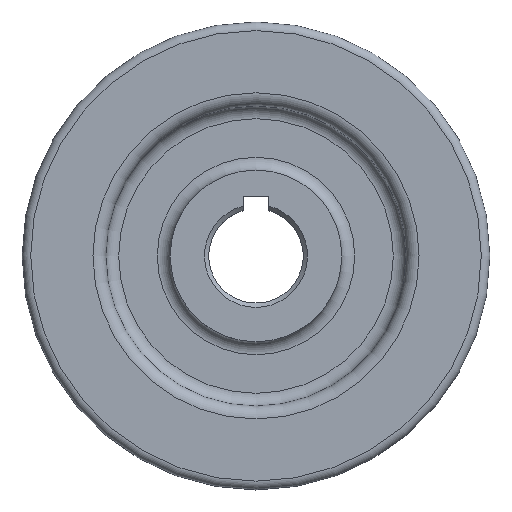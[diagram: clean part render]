
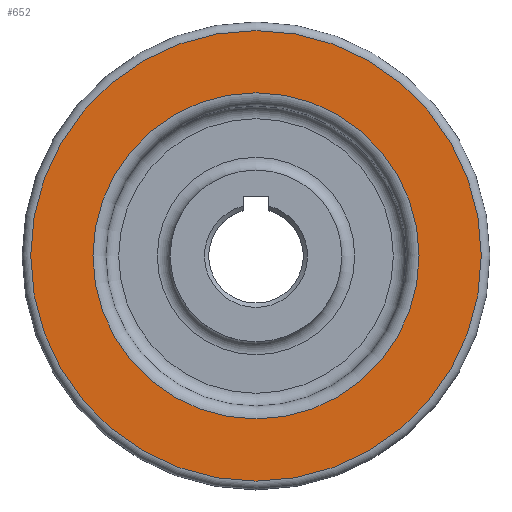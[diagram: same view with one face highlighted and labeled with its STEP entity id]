
A CAD part, top view. The second image highlights one B-rep face of the part: STEP entity #652.
In plain terms, the highlighted planar face has unit normal (0, 0, 1).
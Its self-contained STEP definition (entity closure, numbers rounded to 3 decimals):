
#43=FACE_BOUND('',#155,.T.);
#96=PLANE('',#731);
#111=FACE_OUTER_BOUND('',#154,.T.);
#154=EDGE_LOOP('',(#487));
#155=EDGE_LOOP('',(#488));
#195=CIRCLE('',#724,38.);
#201=CIRCLE('',#732,52.5);
#281=VERTEX_POINT('',#1133);
#286=VERTEX_POINT('',#1147);
#355=EDGE_CURVE('',#281,#281,#195,.T.);
#362=EDGE_CURVE('',#286,#286,#201,.T.);
#487=ORIENTED_EDGE('',*,*,#362,.F.);
#488=ORIENTED_EDGE('',*,*,#355,.F.);
#652=ADVANCED_FACE('',(#111,#43),#96,.T.);
#724=AXIS2_PLACEMENT_3D('',#1134,#872,#873);
#731=AXIS2_PLACEMENT_3D('',#1146,#887,#888);
#732=AXIS2_PLACEMENT_3D('',#1148,#889,#890);
#872=DIRECTION('center_axis',(0.,0.,1.));
#873=DIRECTION('ref_axis',(0.,-1.,0.));
#887=DIRECTION('center_axis',(0.,0.,1.));
#888=DIRECTION('ref_axis',(1.,0.,0.));
#889=DIRECTION('center_axis',(0.,0.,-1.));
#890=DIRECTION('ref_axis',(0.,-1.,0.));
#1133=CARTESIAN_POINT('',(38.,0.,35.));
#1134=CARTESIAN_POINT('Origin',(0.,0.,35.));
#1146=CARTESIAN_POINT('Origin',(0.,27.25,35.));
#1147=CARTESIAN_POINT('',(52.5,0.,35.));
#1148=CARTESIAN_POINT('Origin',(0.,0.,35.));
